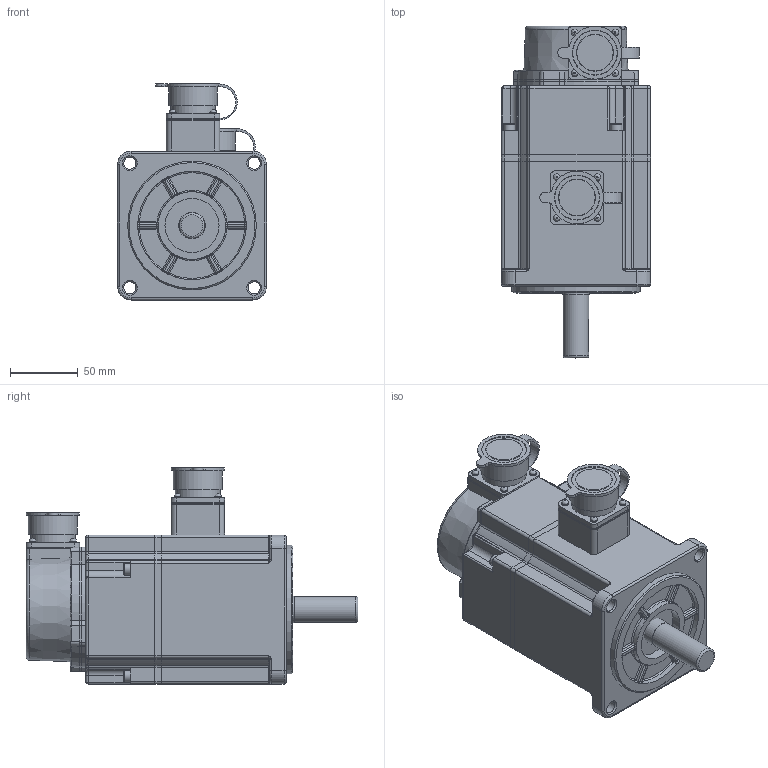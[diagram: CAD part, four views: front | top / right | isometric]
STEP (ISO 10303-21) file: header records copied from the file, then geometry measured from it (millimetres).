
FILE_DESCRIPTION(/* description */ (''),/* implementation_level */ '2;1');
FILE_NAME(/* name */ '28K4N.stp',/* time_stamp */ '2024-04-19T14:21:29+08:00',/* author */ (''),/* organization */ (''),/* preprocessor_version */ 'ST-DEVELOPER v18.1',/* originating_system */ 'SIEMENS PLM Software NX 2000',/* authorisation */ '');
FILE_SCHEMA (('AUTOMOTIVE_DESIGN { 1 0 10303 214 3 1 1 1 }'));
Length unit declared in the file: millimetre
Products named in the file (1): 92504378DBD25y9b
Bounding box: 110 x 245 x 159.5 mm (x, y, z)
Volume: 1841633 mm3; surface area: 243223.8 mm2
Topology: 23 solids, 26 shells, 1044 faces, 2433 edges, 1431 vertices
Faces by surface type: cylinder 400, plane 326, torus 108, bspline 97, cone 61, sphere 52
Full cylindrical faces by diameter (mm): 2.5 x8, 2.8 x1, 3 x4, 3.5 x1, 4 x3, 4.1 x16, 4.2 x3, 4.826 x4, 5 x17, 5.5 x3, 8.5 x4, 9 x4, 19 x1, 19.6 x1, 20 x1, 22.288 x1, 24 x1, 24.616 x1, 27 x4, 28 x2, 30 x3, 33 x6, 35 x1, 36 x2, 40 x2, 84 x1, 95 x1, 100 x1, 101.4 x1, 104 x3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
Entity records: 31770 total; most frequent: CARTESIAN_POINT 9202, DIRECTION 4865, ORIENTED_EDGE 4276, EDGE_CURVE 2138, AXIS2_PLACEMENT_3D 2014, VERTEX_POINT 1367, EDGE_LOOP 1336, ADVANCED_FACE 1044
